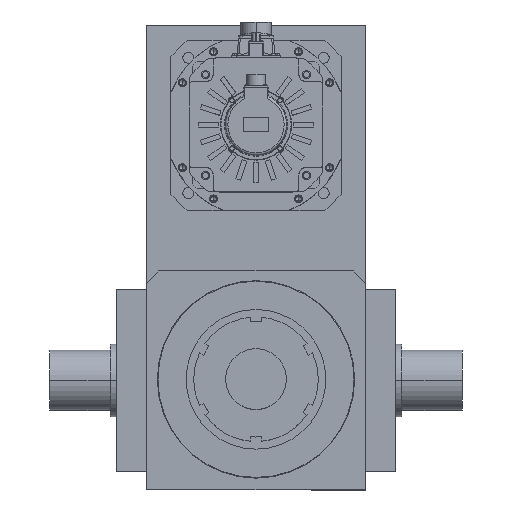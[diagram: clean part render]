
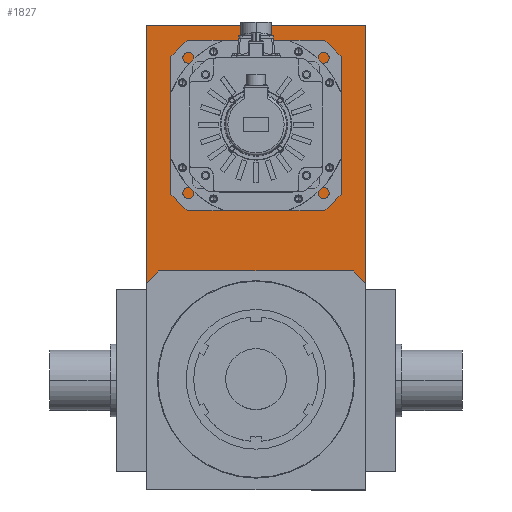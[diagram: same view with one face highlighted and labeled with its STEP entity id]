
A CAD part, top view. The second image highlights one B-rep face of the part: STEP entity #1827.
In plain terms, the highlighted planar face has unit normal (0, 0, 1).
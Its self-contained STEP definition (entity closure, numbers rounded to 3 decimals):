
#509 = ORIENTED_EDGE ( 'NONE', *, *, #32370, .T. ) ;
#964 = VECTOR ( 'NONE', #2142, 1000. ) ;
#969 = EDGE_LOOP ( 'NONE', ( #15825, #509, #22146, #26792, #8419, #15765 ) ) ;
#983 = CARTESIAN_POINT ( 'NONE',  ( 180., 160., -220. ) ) ;
#1769 = CARTESIAN_POINT ( 'NONE',  ( -170., 170., -220. ) ) ;
#1827 = ADVANCED_FACE ( 'NONE', ( #15411, #29306 ), #21217, .F. ) ;
#2142 = DIRECTION ( 'NONE',  ( 0., 1., 0. ) ) ;
#2927 = VECTOR ( 'NONE', #22457, 1000. ) ;
#3237 = VECTOR ( 'NONE', #35823, 1000. ) ;
#5432 = CIRCLE ( 'NONE', #14724, 30. ) ;
#7958 = DIRECTION ( 'NONE',  ( -1., 0., 0. ) ) ;
#7996 = ORIENTED_EDGE ( 'NONE', *, *, #24619, .F. ) ;
#8195 = AXIS2_PLACEMENT_3D ( 'NONE', #31066, #21799, #9684 ) ;
#8419 = ORIENTED_EDGE ( 'NONE', *, *, #34582, .T. ) ;
#8828 = CARTESIAN_POINT ( 'NONE',  ( 0., 0., -220. ) ) ;
#9684 = DIRECTION ( 'NONE',  ( 1., 0., 0. ) ) ;
#10486 = CARTESIAN_POINT ( 'NONE',  ( 170., 170., -220. ) ) ;
#11210 = LINE ( 'NONE', #17918, #22639 ) ;
#11737 = CARTESIAN_POINT ( 'NONE',  ( 180., 0., -220. ) ) ;
#12002 = VECTOR ( 'NONE', #26075, 1000. ) ;
#12695 = LINE ( 'NONE', #38327, #22666 ) ;
#12775 = CARTESIAN_POINT ( 'NONE',  ( -30., 420., -220. ) ) ;
#14724 = AXIS2_PLACEMENT_3D ( 'NONE', #18092, #39652, #21412 ) ;
#14958 = DIRECTION ( 'NONE',  ( -1., 0., 0. ) ) ;
#15286 = CARTESIAN_POINT ( 'NONE',  ( -180., 585., -220. ) ) ;
#15411 = FACE_BOUND ( 'NONE', #28990, .T. ) ;
#15484 = DIRECTION ( 'NONE',  ( 0., 0., -1. ) ) ;
#15735 = VERTEX_POINT ( 'NONE', #983 ) ;
#15765 = ORIENTED_EDGE ( 'NONE', *, *, #20149, .T. ) ;
#15815 = AXIS2_PLACEMENT_3D ( 'NONE', #8828, #15484, #14958 ) ;
#15825 = ORIENTED_EDGE ( 'NONE', *, *, #39686, .F. ) ;
#17918 = CARTESIAN_POINT ( 'NONE',  ( 0., 585., -220. ) ) ;
#18092 = CARTESIAN_POINT ( 'NONE',  ( 0., 420., -220. ) ) ;
#18440 = DIRECTION ( 'NONE',  ( -1., 0., 0. ) ) ;
#19139 = LINE ( 'NONE', #26980, #964 ) ;
#20149 = EDGE_CURVE ( 'NONE', #25208, #24539, #11210, .T. ) ;
#21217 = PLANE ( 'NONE',  #15815 ) ;
#21412 = DIRECTION ( 'NONE',  ( 1., 0., 0. ) ) ;
#21799 = DIRECTION ( 'NONE',  ( 0., 0., 1. ) ) ;
#22093 = CARTESIAN_POINT ( 'NONE',  ( -160., 180., -220. ) ) ;
#22146 = ORIENTED_EDGE ( 'NONE', *, *, #37528, .F. ) ;
#22457 = DIRECTION ( 'NONE',  ( 0.707, -0.707, 0. ) ) ;
#22611 = VERTEX_POINT ( 'NONE', #22093 ) ;
#22639 = VECTOR ( 'NONE', #18440, 1000. ) ;
#22666 = VECTOR ( 'NONE', #7958, 1000. ) ;
#24539 = VERTEX_POINT ( 'NONE', #15286 ) ;
#24619 = EDGE_CURVE ( 'NONE', #35761, #28827, #28555, .T. ) ;
#25208 = VERTEX_POINT ( 'NONE', #33321 ) ;
#25934 = ORIENTED_EDGE ( 'NONE', *, *, #30113, .F. ) ;
#26075 = DIRECTION ( 'NONE',  ( 0.707, 0.707, 0. ) ) ;
#26423 = CARTESIAN_POINT ( 'NONE',  ( 30., 420., -220. ) ) ;
#26639 = LINE ( 'NONE', #11737, #3237 ) ;
#26792 = ORIENTED_EDGE ( 'NONE', *, *, #32201, .T. ) ;
#26980 = CARTESIAN_POINT ( 'NONE',  ( -180., 0., -220. ) ) ;
#27758 = LINE ( 'NONE', #1769, #12002 ) ;
#28555 = CIRCLE ( 'NONE', #8195, 30. ) ;
#28827 = VERTEX_POINT ( 'NONE', #12775 ) ;
#28990 = EDGE_LOOP ( 'NONE', ( #7996, #25934 ) ) ;
#29306 = FACE_OUTER_BOUND ( 'NONE', #969, .T. ) ;
#29584 = CARTESIAN_POINT ( 'NONE',  ( -180., 160., -220. ) ) ;
#29718 = CARTESIAN_POINT ( 'NONE',  ( 160., 180., -220. ) ) ;
#30113 = EDGE_CURVE ( 'NONE', #28827, #35761, #5432, .T. ) ;
#31066 = CARTESIAN_POINT ( 'NONE',  ( 0., 420., -220. ) ) ;
#32201 = EDGE_CURVE ( 'NONE', #32472, #15735, #37378, .T. ) ;
#32370 = EDGE_CURVE ( 'NONE', #32394, #22611, #27758, .T. ) ;
#32394 = VERTEX_POINT ( 'NONE', #29584 ) ;
#32472 = VERTEX_POINT ( 'NONE', #29718 ) ;
#33321 = CARTESIAN_POINT ( 'NONE',  ( 180., 585., -220. ) ) ;
#34582 = EDGE_CURVE ( 'NONE', #15735, #25208, #26639, .T. ) ;
#35761 = VERTEX_POINT ( 'NONE', #26423 ) ;
#35823 = DIRECTION ( 'NONE',  ( 0., 1., 0. ) ) ;
#37378 = LINE ( 'NONE', #10486, #2927 ) ;
#37528 = EDGE_CURVE ( 'NONE', #32472, #22611, #12695, .T. ) ;
#38327 = CARTESIAN_POINT ( 'NONE',  ( -180., 180., -220. ) ) ;
#39652 = DIRECTION ( 'NONE',  ( 0., 0., 1. ) ) ;
#39686 = EDGE_CURVE ( 'NONE', #32394, #24539, #19139, .T. ) ;
